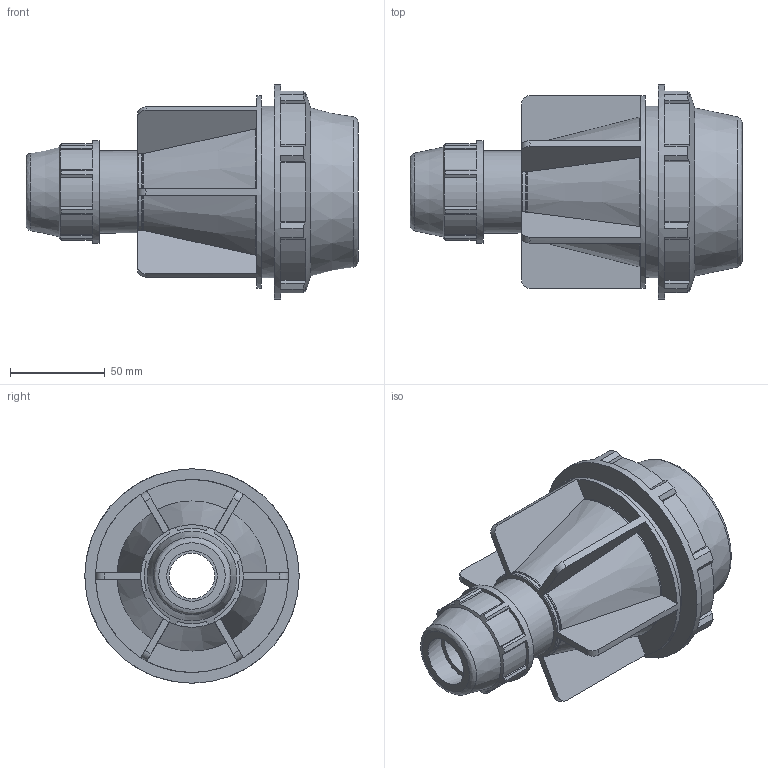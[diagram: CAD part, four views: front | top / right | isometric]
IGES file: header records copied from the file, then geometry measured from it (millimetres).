
Global section: file name: 0711M0020007.ipt; native system: Autodesk Inventor 2019; preprocessor: unknown; author: KIM; date: 20210826.124708; units: inch
Bounding box: 175 x 113.03 x 113.03 mm (x, y, z)
Volume: 434009 mm3; surface area: 94359.5 mm2
Topology: 1 solids, 1 shells, 212 faces, 623 edges, 420 vertices
Faces by surface type: plane 137, cylinder 45, revolution 20, cone 10
Full cylindrical faces by diameter (mm): 43.282 x1, 54.102 x1, 90.424 x1, 101.727 x1, 113.03 x1
